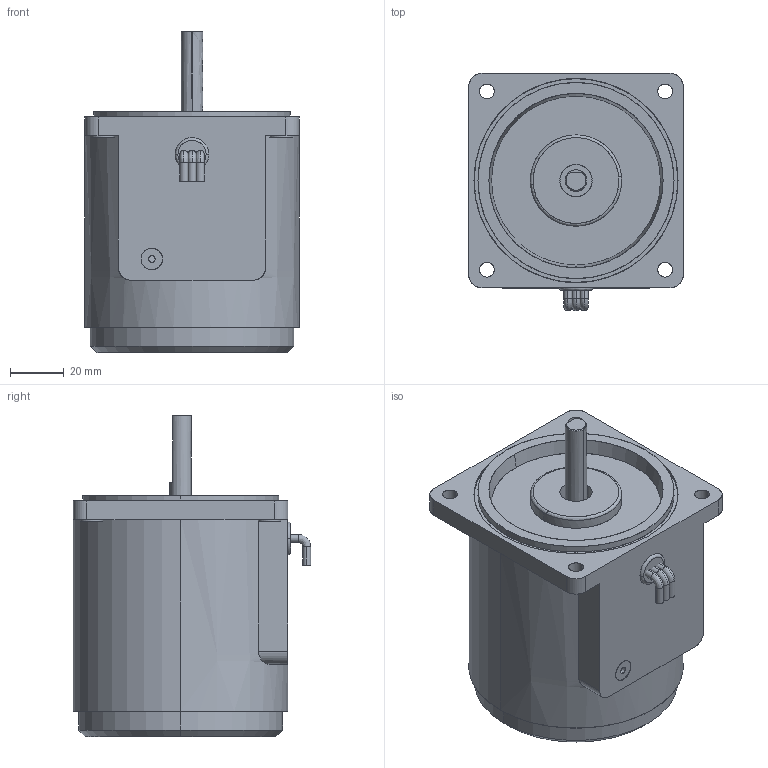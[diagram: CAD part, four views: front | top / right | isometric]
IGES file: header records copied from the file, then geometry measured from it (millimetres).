
Start section: SolidWorks IGES file using analytic representation for surfaces
Bounding box: 80 x 88.5 x 120 mm (x, y, z)
Surface area: 70585.9 mm2 (no closed solid volume)
Topology: 0 solids, 0 shells, 120 faces, 2795 edges, 2795 vertices
Faces by surface type: revolution 67, bspline 53
